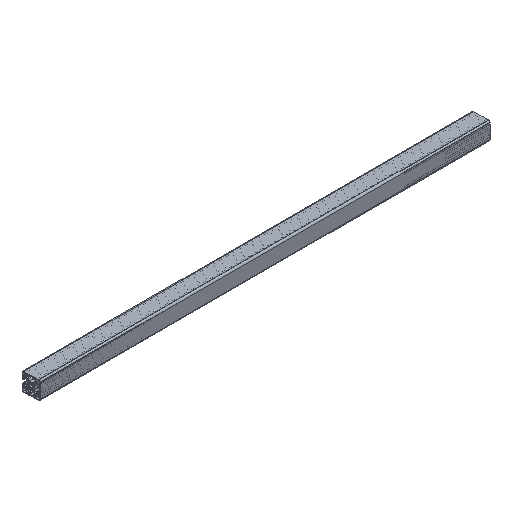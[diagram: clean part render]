
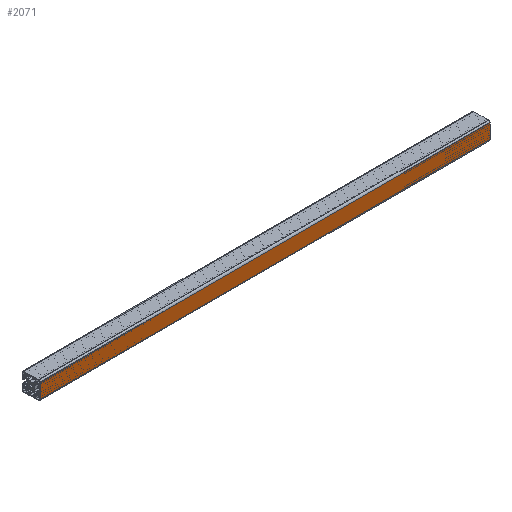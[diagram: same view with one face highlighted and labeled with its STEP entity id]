
A CAD part, isometric view. The second image highlights one B-rep face of the part: STEP entity #2071.
In plain terms, the highlighted planar face has unit normal (0, -1, 0).
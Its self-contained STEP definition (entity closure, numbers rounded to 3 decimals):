
#126 = FACE_OUTER_BOUND ( 'NONE', #719, .T. ) ;
#167 = VECTOR ( 'NONE', #1880, 1000. ) ;
#593 = CARTESIAN_POINT ( 'NONE',  ( 1000., -20., -16. ) ) ;
#626 = CARTESIAN_POINT ( 'NONE',  ( 1000., -20., 16. ) ) ;
#668 = ORIENTED_EDGE ( 'NONE', *, *, #2293, .F. ) ;
#705 = CARTESIAN_POINT ( 'NONE',  ( 1000., -20., 16. ) ) ;
#719 = EDGE_LOOP ( 'NONE', ( #3181, #668, #2367, #4740 ) ) ;
#722 = LINE ( 'NONE', #729, #3613 ) ;
#729 = CARTESIAN_POINT ( 'NONE',  ( 0., -20., 16. ) ) ;
#806 = CARTESIAN_POINT ( 'NONE',  ( 0., -20., 16. ) ) ;
#938 = CARTESIAN_POINT ( 'NONE',  ( 1000., -20., -16. ) ) ;
#1017 = EDGE_CURVE ( 'NONE', #4395, #3118, #4219, .T. ) ;
#1091 = VERTEX_POINT ( 'NONE', #938 ) ;
#1434 = PLANE ( 'NONE',  #3475 ) ;
#1530 = DIRECTION ( 'NONE',  ( 0., 0., -1. ) ) ;
#1649 = CARTESIAN_POINT ( 'NONE',  ( 0., -20., -16. ) ) ;
#1880 = DIRECTION ( 'NONE',  ( 0., 0., -1. ) ) ;
#2071 = ADVANCED_FACE ( 'NONE', ( #126 ), #1434, .F. ) ;
#2220 = DIRECTION ( 'NONE',  ( 0., 0., 1. ) ) ;
#2281 = LINE ( 'NONE', #4588, #167 ) ;
#2293 = EDGE_CURVE ( 'NONE', #1091, #4716, #2571, .T. ) ;
#2367 = ORIENTED_EDGE ( 'NONE', *, *, #4368, .F. ) ;
#2571 = LINE ( 'NONE', #593, #3599 ) ;
#2880 = DIRECTION ( 'NONE',  ( -1., 0., 0. ) ) ;
#2960 = DIRECTION ( 'NONE',  ( -1., 0., 0. ) ) ;
#3085 = VECTOR ( 'NONE', #2880, 1000. ) ;
#3118 = VERTEX_POINT ( 'NONE', #806 ) ;
#3181 = ORIENTED_EDGE ( 'NONE', *, *, #4502, .T. ) ;
#3475 = AXIS2_PLACEMENT_3D ( 'NONE', #626, #4534, #2220 ) ;
#3599 = VECTOR ( 'NONE', #2960, 1000. ) ;
#3613 = VECTOR ( 'NONE', #1530, 1000. ) ;
#3657 = CARTESIAN_POINT ( 'NONE',  ( 1000., -20., 16. ) ) ;
#4219 = LINE ( 'NONE', #3657, #3085 ) ;
#4368 = EDGE_CURVE ( 'NONE', #4395, #1091, #2281, .T. ) ;
#4395 = VERTEX_POINT ( 'NONE', #705 ) ;
#4502 = EDGE_CURVE ( 'NONE', #3118, #4716, #722, .T. ) ;
#4534 = DIRECTION ( 'NONE',  ( 0., 1., 0. ) ) ;
#4588 = CARTESIAN_POINT ( 'NONE',  ( 1000., -20., 16. ) ) ;
#4716 = VERTEX_POINT ( 'NONE', #1649 ) ;
#4740 = ORIENTED_EDGE ( 'NONE', *, *, #1017, .T. ) ;
